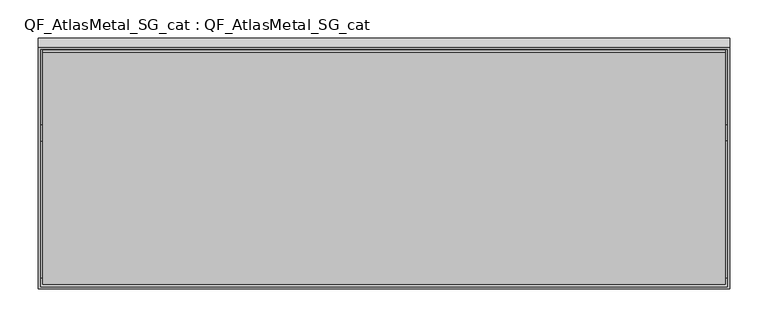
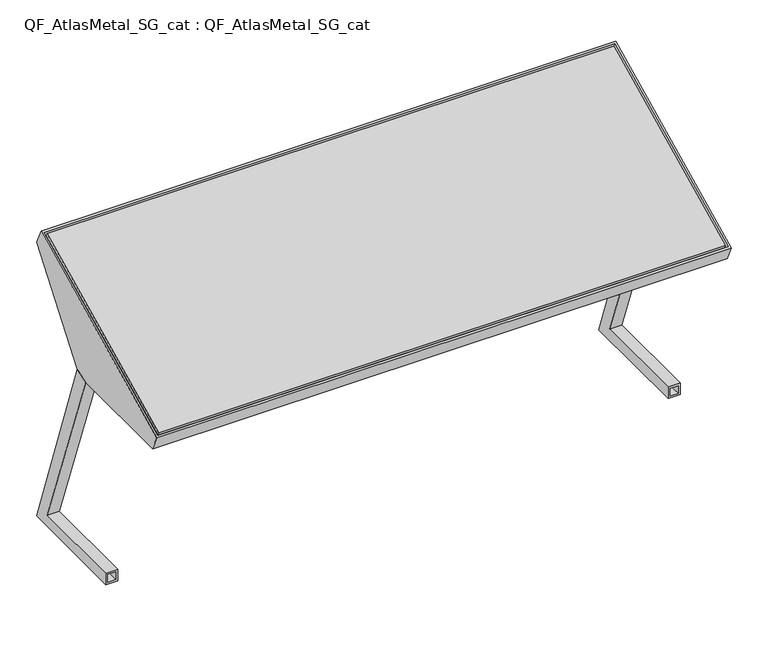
"""IFC4 building model written with IfcOpenShell, lengths in millimetres: proxy geometry, QF_AtlasMetal_SG_cat : QF_AtlasMetal_SG_cat."""

from ifc_helpers import new_model, si_unit, frame, origin, place, context, project, spatial, polyline, outline, extrude, faceted_brep, source, transform, mapped, element, save


def qf_atlasmetal_sg_cat_qf_atlasmetal_sg_cat_6c17e1e4(model_context):
    return source(origin(), model_context, "Body", "SolidModel", [
        faceted_brep([(493.6305745, -53.159389, 0.0009518), (493.6305745, -242.8875, 0.0009518), (493.6305745, -242.8875, 19.05), (493.6305745, -82.9964383, 19.05), (493.6305745, -187.99271, 304.8), (493.6305745, -165.0039927, 313.0142329), (512.6805745, -53.159389, 0.0009518), (512.6805745, -165.0039927, 313.0142329), (512.6805745, -187.99271, 304.8), (512.6805745, -82.9964383, 19.05), (512.6805745, -242.8875, 19.05), (512.6805745, -242.8875, 0.0009518), (509.5055745, -242.8875, 15.875), (509.5055745, -242.8875, 3.1759518), (496.8055745, -242.8875, 3.1759518), (496.8055745, -242.8875, 15.875), (509.5055745, -87.0650826, 15.875), (496.8055745, -87.0650826, 15.875), (496.8055745, -87.0650826, 3.1759518), (509.5055745, -87.0650826, 3.1759518)], [[[0, 1, 2, 3, 4, 5]], [[6, 7, 8, 9, 10, 11]], [[3, 2, 10, 9]], [[2, 1, 11, 10], [12, 13, 14, 15]], [[1, 0, 6, 11]], [[16, 17, 18, 19]], [[16, 19, 13, 12]], [[19, 18, 14, 13]], [[18, 17, 15, 14]], [[17, 16, 12, 15]], [[0, 5, 7, 6]], [[5, 4, 8, 7]], [[4, 3, 9, 8]]]),
        faceted_brep([(-376.3194255, -242.8875, 0.0), (-376.3194255, -53.1590489, 0.0), (-376.3194255, -165.0039927, 313.0142329), (-376.3194255, -187.99271, 304.8), (-376.3194255, -82.9964383, 19.05), (-376.3194255, -242.8875, 19.05), (-395.3694255, -242.8875, 0.0), (-395.3694255, -242.8875, 19.05), (-395.3694255, -82.9964383, 19.05), (-395.3694255, -187.99271, 304.8), (-395.3694255, -165.0039927, 313.0142329), (-395.3694255, -53.1590489, 0.0), (-379.4944255, -242.8875, 15.875), (-379.4944255, -242.8875, 3.175), (-392.1944255, -242.8875, 3.175), (-392.1944255, -242.8875, 15.875), (-379.4944255, -87.0650826, 15.875), (-392.1944255, -87.0650826, 15.875), (-392.1944255, -87.0650826, 3.175), (-379.4944255, -87.0650826, 3.175)], [[[0, 1, 2, 3, 4, 5]], [[6, 7, 8, 9, 10, 11]], [[1, 0, 6, 11]], [[5, 4, 8, 7]], [[0, 5, 7, 6], [12, 13, 14, 15]], [[16, 17, 18, 19]], [[16, 19, 13, 12]], [[19, 18, 14, 13]], [[18, 17, 15, 14]], [[17, 16, 12, 15]], [[2, 1, 11, 10]], [[3, 2, 10, 9]], [[4, 3, 9, 8]]]),
        extrude(outline(polyline([(0.0, -339.725), (0.0, 0.0), (895.35, 0.0), (895.35, -339.725), (0.0, -339.725)])), frame((506.3305745, -375.1310542, 328.5545575), z_axis=(0.0, -0.4360458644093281, 0.8999244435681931), x_axis=(-1.0, 0.0, 0.0)), (0.0, 0.0, 1.0), 4.7625),
        faceted_brep([(-376.3194255, -166.8607034, 315.7223975), (-376.3194255, -188.5429145, 307.975), (-376.3194255, -358.1033681, 307.975), (-376.3194255, -356.5649661, 304.8), (-376.3194255, -187.99271, 304.8), (-376.3194255, -164.9099402, 313.0478393), (-376.3194255, -62.1654727, 447.1880028), (-376.3194255, -63.7151304, 450.3862325), (-392.1944255, -188.5429145, 307.975), (-392.1944255, -166.8607034, 315.7223975), (-392.1944255, -57.2320683, 458.8503282), (-392.1944255, -68.623631, 482.3605746), (-392.1944255, -380.0649828, 331.4560021), (-392.1944255, -368.68759, 307.975), (-395.3694255, -382.9222429, 330.0715564), (-395.3694255, -65.7663708, 483.7450202), (-395.3694255, -53.5213899, 458.4734638), (-395.3694255, -164.9099402, 313.0478393), (-395.3694255, -187.99271, 304.8), (-395.3694255, -370.6772619, 304.8), (512.6805745, -382.9222429, 330.0715564), (512.6805745, -65.7663708, 483.7450202), (509.5055745, -68.623631, 482.3605746), (509.5055745, -380.0649828, 331.4560021), (512.6805745, -187.99271, 304.8), (512.6805745, -164.9099402, 313.0478393), (512.6805745, -53.5213899, 458.4734638), (512.6805745, -55.0710476, 461.6716935), (512.6805745, -372.215664, 307.975), (512.6805745, -370.6772619, 304.8), (509.5055745, -57.2320683, 458.8503282), (509.5055745, -368.68759, 307.975), (509.5055745, -166.8607034, 315.7223975), (509.5055745, -188.5429145, 307.975), (493.6305745, -188.5429145, 307.975), (493.6305745, -166.8607034, 315.7223975), (493.6305745, -63.7151304, 450.3862325), (493.6305745, -62.1654727, 447.1880028), (493.6305745, -164.9099402, 313.0478393), (493.6305745, -187.99271, 304.8), (493.6305745, -356.5649661, 304.8), (493.6305745, -358.1033681, 307.975)], [[[0, 1, 2, 3, 4, 5, 6, 7]], [[8, 9, 10, 11, 12, 13]], [[14, 15, 16, 17, 18, 19]], [[15, 14, 20, 21], [12, 11, 22, 23]], [[24, 25, 26, 27, 21, 20, 28, 29]], [[11, 10, 30, 22]], [[31, 13, 12, 23]], [[23, 22, 30, 32, 33, 31]], [[34, 35, 36, 37, 38, 39, 40, 41]], [[26, 16, 15, 21, 27]], [[9, 0, 7, 36, 35, 32, 30, 10]], [[1, 0, 9, 8]], [[1, 8, 13, 31, 33, 34, 41, 2]], [[14, 19, 29, 28, 20]], [[19, 18, 4, 3, 40, 39, 24, 29]], [[5, 4, 18, 17]], [[17, 16, 26, 25, 38, 37, 6, 5]], [[3, 2, 41, 40]], [[7, 6, 37, 36]], [[35, 34, 33, 32]], [[38, 25, 24, 39]]]),
    ])


if __name__ == "__main__":
    model = new_model("IFC4")
    model_context = context("Model", 3, world=origin())
    ifc_project = project(units=[si_unit("LENGTHUNIT", "METRE", prefix="MILLI")], contexts=[model_context])
    site = spatial("IfcSite", under=ifc_project)
    building = spatial("IfcBuilding", under=site)
    placement = place(None, origin())
    qf_atlasmetal_sg_cat_qf_atlasmetal_sg_cat_shape = qf_atlasmetal_sg_cat_qf_atlasmetal_sg_cat_6c17e1e4(model_context)
    element("IfcBuildingElementProxy", 1, Name="QF_AtlasMetal_SG_cat : QF_AtlasMetal_SG_cat", ObjectType="QF_AtlasMetal_SG_cat : QF_AtlasMetal_SG_cat", at=placement, inside=building, context=model_context, shape_type="MappedRepresentation", body=[
        mapped(qf_atlasmetal_sg_cat_qf_atlasmetal_sg_cat_shape, transform((0.0, 0.0, 0.0), x_axis=(1.0, 0.0, 0.0), y_axis=(0.0, 1.0, 0.0), z_axis=(0.0, 0.0, 1.0))),
    ])
    save(model, "model.ifc")
